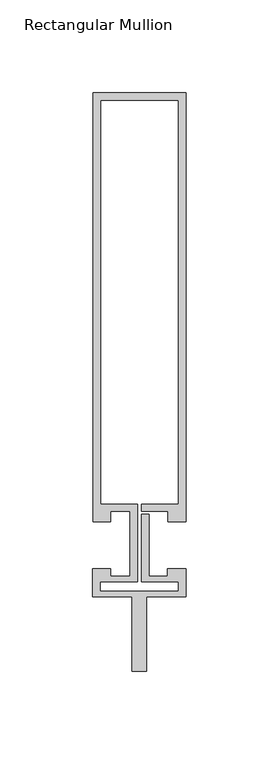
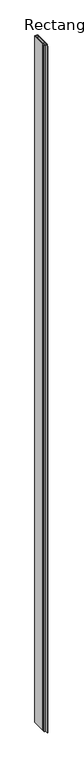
"""IFC4 building model written with IfcOpenShell, lengths in millimetres: member geometry, Rectangular Mullion : Reynaers_CW-50_Transom-Transom_230.5mm_Facecap-06B."""

import ifcopenshell
import ifcopenshell.guid

model = None  # the IFC model being written
_history = None  # IfcOwnerHistory: only IFC2X3 demands one
_inside = {}  # id of a spatial element -> (the spatial element, [elements in it])
_under = {}  # id of a project, library or spatial element -> (it, [spatial elements below it])
_declared = {}  # id of a project -> (the project, [libraries it declares])
_typed = {}  # id of a type object -> (the type object, [elements of that type])
_made_of = {}  # id of a material, layer set ... -> (it, [elements and type objects made of it])


def new_model(schema):
    """Start an empty IFC model of exactly this schema.

    Asked for "IFC4X3", IfcOpenShell would pick the latest addendum, in which some entities
    have other attributes; the version numbers below select the first issue.
    IFC2X3 requires an IfcOwnerHistory on every rooted entity: one is made here for all.
    """
    global model, _history
    if schema == "IFC4X3":
        model = ifcopenshell.file(schema_version=(4, 3, 0, 0))
    else:
        model = ifcopenshell.file(schema=schema)
    _inside.clear()
    _under.clear()
    _declared.clear()
    _typed.clear()
    _made_of.clear()
    _history = None
    if model.schema == "IFC2X3":
        org = make("IfcOrganization", Name="unknown")
        user = make(
            "IfcPersonAndOrganization",
            ThePerson=make("IfcPerson", FamilyName="unknown"),
            TheOrganization=org,
        )
        app = make(
            "IfcApplication",
            ApplicationDeveloper=org,
            Version="unknown",
            ApplicationFullName="unknown",
            ApplicationIdentifier="unknown",
        )
        _history = make(
            "IfcOwnerHistory",
            OwningUser=user,
            OwningApplication=app,
            ChangeAction="ADDED",
            CreationDate=0,
        )
    return model


def make(cls, **values):
    """One entity of the class cls with the attributes given. An attribute that is None is left unset."""
    return model.create_entity(
        cls, **{name: value for name, value in values.items() if value is not None}
    )


def rooted(cls, **values):
    """An entity with a GlobalId (a new one), such as an element, a storey or a relation."""
    return make(cls, GlobalId=ifcopenshell.guid.new(), OwnerHistory=_history, **values)


def si_unit(unit_type, name, prefix=None):
    """IfcSIUnit, for example si_unit("LENGTHUNIT", "METRE", prefix="MILLI")."""
    return make("IfcSIUnit", UnitType=unit_type, Prefix=prefix, Name=name)


def assignment(units):
    """IfcUnitAssignment: the units of a project."""
    return None if units is None else make("IfcUnitAssignment", Units=units)


def point(xyz):
    """IfcCartesianPoint."""
    return None if xyz is None else make("IfcCartesianPoint", Coordinates=xyz)


def direction(xyz):
    """IfcDirection."""
    return None if xyz is None else make("IfcDirection", DirectionRatios=xyz)


def frame(location, z_axis=None, x_axis=None):
    """IfcAxis2Placement3D, a coordinate frame: its origin and axes. An axis left out is left unset."""
    return make(
        "IfcAxis2Placement3D",
        Location=point(location),
        Axis=direction(z_axis),
        RefDirection=direction(x_axis),
    )


def origin():
    """The frame at (0, 0, 0) with its axes left unset."""
    return frame((0.0, 0.0, 0.0))


def place(relative_to, where):
    """IfcLocalPlacement: puts the frame where relative to a parent placement (None: the world)."""
    return make(
        "IfcLocalPlacement", PlacementRelTo=relative_to, RelativePlacement=where
    )


def context(
    kind, dimensions, precision=None, world=None, true_north=None, identifier=None
):
    """IfcGeometricRepresentationContext, for example the 3D "Model" context."""
    return make(
        "IfcGeometricRepresentationContext",
        ContextIdentifier=identifier,
        ContextType=kind,
        CoordinateSpaceDimension=dimensions,
        Precision=precision,
        WorldCoordinateSystem=world,
        TrueNorth=true_north,
    )


def project(units=None, contexts=None):
    """IfcProject with its units and contexts."""
    return rooted(
        "IfcProject",
        Name="project",
        RepresentationContexts=contexts,
        UnitsInContext=assignment(units),
    )


def spatial(cls, under=None, at=None, **own):
    """A site, building, storey or space (cls), placed at a placement, below another one or the project."""
    s = rooted(cls, ObjectPlacement=at, **own)
    if under is not None:
        _under.setdefault(under.id(), (under, []))[1].append(s)
    return s


def polyline(points):
    """IfcPolyline through the points."""
    return make("IfcPolyline", Points=[point(p) for p in points])


def outline(outer, holes=None, kind="AREA"):
    """IfcArbitraryClosedProfileDef: a profile drawn as a closed curve; with holes, ...WithVoids."""
    if holes is None:
        return make("IfcArbitraryClosedProfileDef", ProfileType=kind, OuterCurve=outer)
    return make(
        "IfcArbitraryProfileDefWithVoids",
        ProfileType=kind,
        OuterCurve=outer,
        InnerCurves=holes,
    )


def extrude(swept, where, along, depth):
    """IfcExtrudedAreaSolid: the profile swept, set in the frame where, extruded along a direction by depth."""
    return make(
        "IfcExtrudedAreaSolid",
        SweptArea=swept,
        Position=where,
        ExtrudedDirection=direction(along),
        Depth=depth,
    )


def shape(context_of_items, identifier, shape_type, items):
    """IfcShapeRepresentation: the items that make up one representation, for example the "Body"."""
    return make(
        "IfcShapeRepresentation",
        ContextOfItems=context_of_items,
        RepresentationIdentifier=identifier,
        RepresentationType=shape_type,
        Items=items,
    )


def source(mapping_origin, context_of_items, identifier, shape_type, items):
    """IfcRepresentationMap: a shape defined once, which mapped items show again and again."""
    return make(
        "IfcRepresentationMap",
        MappingOrigin=mapping_origin,
        MappedRepresentation=shape(context_of_items, identifier, shape_type, items),
    )


def transform(
    local_origin,
    x_axis=None,
    y_axis=None,
    z_axis=None,
    scale=None,
    scale2=None,
    scale3=None,
    uniform=True,
):
    """IfcCartesianTransformationOperator3D, or its non-uniform kind. x_axis, y_axis, z_axis: its Axis1, 2, 3."""
    if uniform:
        return make(
            "IfcCartesianTransformationOperator3D",
            Axis1=direction(x_axis),
            Axis2=direction(y_axis),
            LocalOrigin=point(local_origin),
            Scale=scale,
            Axis3=direction(z_axis),
        )
    return make(
        "IfcCartesianTransformationOperator3DnonUniform",
        Axis1=direction(x_axis),
        Axis2=direction(y_axis),
        LocalOrigin=point(local_origin),
        Scale=scale,
        Axis3=direction(z_axis),
        Scale2=scale2,
        Scale3=scale3,
    )


def mapped(mapping_source, mapping_target):
    """IfcMappedItem: shows the shape of a source again, moved by a transform."""
    return make(
        "IfcMappedItem", MappingSource=mapping_source, MappingTarget=mapping_target
    )


def made_of(thing, what):
    """Note that an element or type object is made of a material, layer set ...; save() writes the relation."""
    if what is not None:
        _made_of.setdefault(what.id(), (what, []))[1].append(thing)
    return thing


def element(
    cls,
    number,
    at=None,
    inside=None,
    cuts=None,
    type_object=None,
    material=None,
    context=None,
    identifier="Body",
    shape_type=None,
    held_by="IfcProductDefinitionShape",
    body=None,
    shapes=None,
    **own,
):
    """One element of the class cls, such as IfcWall. Its Tag is "e" and its number.

    at: its placement. inside: the storey or other place that contains it. cuts: it is an
    opening in that element (IfcRelVoidsElement). A single representation is given by context,
    identifier, shape_type and body (its items); several are given by shapes. held_by: the class
    of the entity that holds the representations. save() writes the other relations.
    """
    e = rooted(cls, Tag="e%d" % number, ObjectPlacement=at, **own)
    if body is not None:
        shapes = [shape(context, identifier, shape_type, body)]
    if shapes is not None:
        e.Representation = make(held_by, Representations=shapes)
    if inside is not None:
        _inside.setdefault(inside.id(), (inside, []))[1].append(e)
    if cuts is not None:
        rooted(
            "IfcRelVoidsElement", RelatingBuildingElement=cuts, RelatedOpeningElement=e
        )
    if type_object is not None:
        _typed.setdefault(type_object.id(), (type_object, []))[1].append(e)
    return made_of(e, material)


def aggregate(whole, parts):
    """IfcRelAggregates: a whole, such as a stair, and the parts it consists of."""
    return rooted("IfcRelAggregates", RelatingObject=whole, RelatedObjects=parts)


def save(model, path):
    """Write the relations noted so far, then the file.

    IfcRelAggregates (storeys below a building ...), IfcRelContainedInSpatialStructure (elements
    in a storey), IfcRelDefinesByType, IfcRelAssociatesMaterial and IfcRelDeclares: one each for
    every whole, place, type object, material and project.
    """
    for whole, parts in _under.values():
        aggregate(whole, parts)
    for where, things in _inside.values():
        rooted(
            "IfcRelContainedInSpatialStructure",
            RelatedElements=things,
            RelatingStructure=where,
        )
    for kind, things in _typed.values():
        rooted("IfcRelDefinesByType", RelatedObjects=things, RelatingType=kind)
    for what, things in _made_of.values():
        rooted("IfcRelAssociatesMaterial", RelatedObjects=things, RelatingMaterial=what)
    for by, libraries in _declared.values():
        rooted("IfcRelDeclares", RelatingContext=by, RelatedDefinitions=libraries)
    model.write(path)


def rectangular_mullion_c298cf27(model_context):
    return source(origin(), model_context, "Body", "SweptSolid", [
        extrude(outline(polyline([(25.1995941, 12.7331291), (15.499, 12.7331291), (15.499, 18.1331291), (1.2995941, 18.1331291), (1.2995941, 22.1331291), (21.1995941, 22.1331291), (21.1995941, 239.2331291), (-20.8004059, 239.2331291), (-20.8004059, 22.1331291), (-0.9004059, 22.1331291), (-0.9004059, -19.7331291), (-20.994845, -19.7331291), (-20.994845, -24.6522629), (21.1995941, -24.6522629), (21.1995941, -19.7331291), (1.2995941, -19.7331291), (1.2995941, 16.7615089), (5.2995941, 16.7615089), (5.2995941, -16.7331291), (15.2996495, -16.7331291), (15.2996495, -12.7331291), (25.1995941, -12.7331291), (25.1995941, -27.7331291), (4.004855, -27.7331291), (4.004855, -67.7331291), (-3.995145, -67.7331291), (-3.995145, -27.7331291), (-24.994845, -27.7331291), (-24.994845, -12.7331291), (-15.2996495, -12.7331291), (-15.2996495, -16.7331291), (-4.9004059, -16.7331291), (-4.9004059, 18.1331291), (-15.499, 18.1331291), (-15.499, 12.7331291), (-24.8004059, 12.7331291), (-24.8004059, 243.2331291), (25.1995941, 243.2331291), (25.1995941, 12.7331291)])), frame((0.0, 0.0, -12000.0), z_axis=(0.0, 0.0, 1.0), x_axis=(1.0, 0.0, 0.0)), (0.0, 0.0, 1.0), 12000.0),
    ])


if __name__ == "__main__":
    model = new_model("IFC4")
    model_context = context("Model", 3, world=origin())
    ifc_project = project(units=[si_unit("LENGTHUNIT", "METRE", prefix="MILLI")], contexts=[model_context])
    site = spatial("IfcSite", under=ifc_project)
    building = spatial("IfcBuilding", under=site)
    placement = place(None, origin())
    rectangular_mullion_shape = rectangular_mullion_c298cf27(model_context)
    element("IfcMember", 1, ObjectType="Rectangular Mullion : Reynaers_CW-50_Transom-Transom_230.5mm_Facecap-06B", at=placement, inside=building, context=model_context, shape_type="MappedRepresentation", body=[
        mapped(rectangular_mullion_shape, transform((0.0, 0.0, 0.0), x_axis=(1.0, 0.0, 0.0), y_axis=(0.0, 1.0, 0.0), z_axis=(0.0, 0.0, 1.0))),
    ])
    save(model, "model.ifc")
